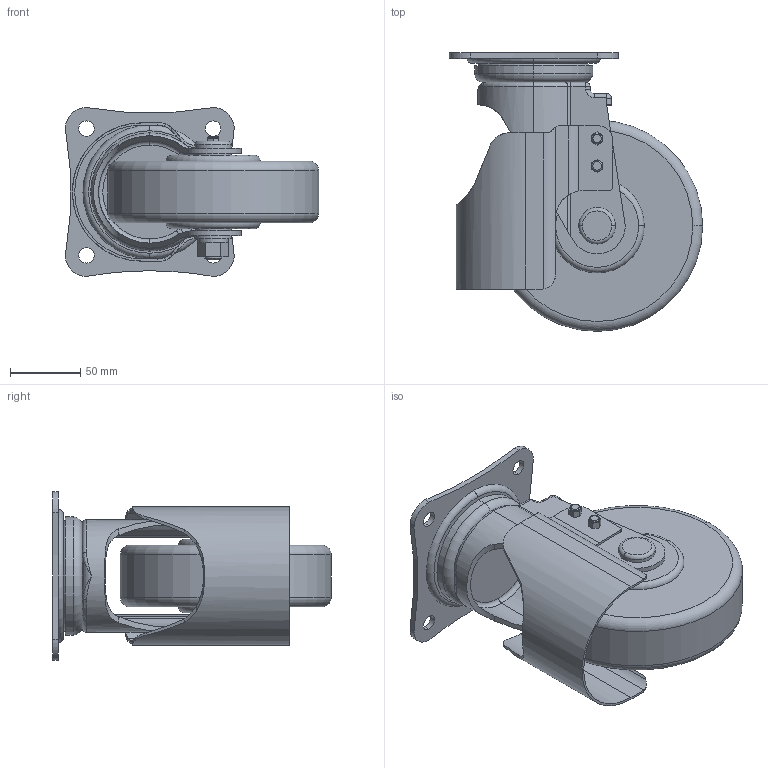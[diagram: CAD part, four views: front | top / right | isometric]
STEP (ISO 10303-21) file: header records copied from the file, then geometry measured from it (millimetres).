
FILE_DESCRIPTION (( 'STEP AP214' ), '1' );
FILE_NAME ('NSMCBJSAZ150rev0.STEP', '2017-11-29T05:23:16', ( '' ), ( '' ), 'SwSTEP 2.0', 'SolidWorks 2013', '' );
FILE_SCHEMA (( 'AUTOMOTIVE_DESIGN' ));
Length unit declared in the file: millimetre
Products named in the file (6): NSMCBJSAZ150rve4; NSMCBJSAZ150rve5; NSMCBJSAZ150rve1; NSMCBJSAZ150rve3; NSMCBJSAZ150rve2; NSMCBJSAZ150rev0
Assembly tree (5 placements, depth 2):
  NSMCBJSAZ150rev0
    NSMCBJSAZ150rve2
    NSMCBJSAZ150rve3
    NSMCBJSAZ150rve1
    NSMCBJSAZ150rve5
    NSMCBJSAZ150rve4
Bounding box: 180 x 198 x 120 mm (x, y, z)
Volume: 1084580.1 mm3; surface area: 191673 mm2
Topology: 5 solids, 5 shells, 256 faces, 624 edges, 394 vertices
Faces by surface type: plane 117, cylinder 95, torus 40, cone 2, bspline 2
Entity records: 8230 total; most frequent: CARTESIAN_POINT 1946, DIRECTION 1324, ORIENTED_EDGE 1244, EDGE_CURVE 622, AXIS2_PLACEMENT_3D 510, VERTEX_POINT 394, VECTOR 304, LINE 304
